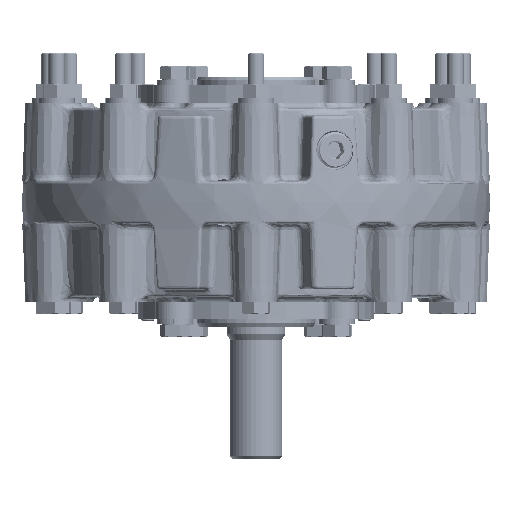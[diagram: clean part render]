
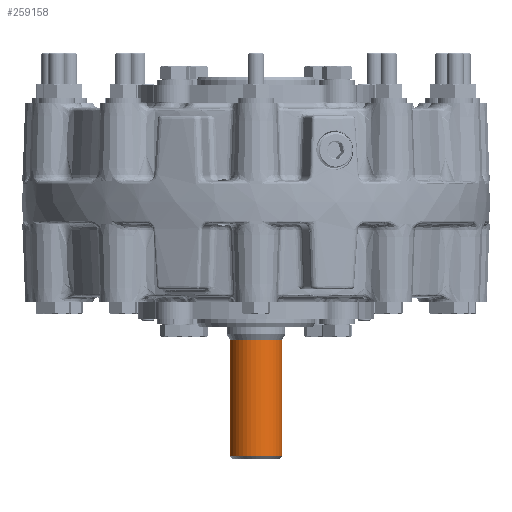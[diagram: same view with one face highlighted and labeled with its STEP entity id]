
A CAD part, front view. The second image highlights one B-rep face of the part: STEP entity #259158.
In plain terms, the highlighted cylindrical face has radius 12.694 mm (diameter 25.387 mm), a partial arc.
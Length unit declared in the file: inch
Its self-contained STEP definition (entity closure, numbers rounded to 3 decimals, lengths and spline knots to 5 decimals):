
#1478 = ORIENTED_EDGE ( 'NONE', *, *, #97974, .T. ) ;
#1939 = LINE ( 'NONE', #202069, #100217 ) ;
#20176 = DIRECTION ( 'NONE',  ( 1., 0., 0. ) ) ;
#36628 = CARTESIAN_POINT ( 'NONE',  ( 0., -0.49975, -2.52218 ) ) ;
#41267 = CARTESIAN_POINT ( 'NONE',  ( 0., 0., -2.52218 ) ) ;
#42764 = ORIENTED_EDGE ( 'NONE', *, *, #72127, .F. ) ;
#56180 = DIRECTION ( 'NONE',  ( 0., 0., -1. ) ) ;
#56465 = LINE ( 'NONE', #57778, #196197 ) ;
#57496 = CARTESIAN_POINT ( 'NONE',  ( 0., 0., -2.52218 ) ) ;
#57778 = CARTESIAN_POINT ( 'NONE',  ( 0.49975, 0., 0.003 ) ) ;
#62532 = ORIENTED_EDGE ( 'NONE', *, *, #189594, .T. ) ;
#62909 = AXIS2_PLACEMENT_3D ( 'NONE', #110902, #91141, #171426 ) ;
#72127 = EDGE_CURVE ( 'NONE', #255762, #110236, #1939, .T. ) ;
#73956 = CIRCLE ( 'NONE', #149795, 0.49975 ) ;
#74774 = ORIENTED_EDGE ( 'NONE', *, *, #195313, .T. ) ;
#87245 = EDGE_CURVE ( 'NONE', #255762, #184352, #189032, .T. ) ;
#87873 = EDGE_LOOP ( 'NONE', ( #42764, #126170, #1478, #74774, #62532 ) ) ;
#91141 = DIRECTION ( 'NONE',  ( 0., 0., 1. ) ) ;
#94538 = VERTEX_POINT ( 'NONE', #192455 ) ;
#97974 = EDGE_CURVE ( 'NONE', #184352, #94538, #56465, .T. ) ;
#100217 = VECTOR ( 'NONE', #104624, 39.37008 ) ;
#102646 = DIRECTION ( 'NONE',  ( 0., 0., 1. ) ) ;
#104624 = DIRECTION ( 'NONE',  ( 0., 0., 1. ) ) ;
#110236 = VERTEX_POINT ( 'NONE', #150193 ) ;
#110902 = CARTESIAN_POINT ( 'NONE',  ( 0., 0., -4.74938 ) ) ;
#113190 = CARTESIAN_POINT ( 'NONE',  ( 0.49975, 0., -4.74938 ) ) ;
#117679 = CARTESIAN_POINT ( 'NONE',  ( -0.49975, 0., -4.74938 ) ) ;
#121126 = CYLINDRICAL_SURFACE ( 'NONE', #225048, 0.49975 ) ;
#126170 = ORIENTED_EDGE ( 'NONE', *, *, #87245, .T. ) ;
#135870 = CIRCLE ( 'NONE', #140022, 0.49975 ) ;
#136788 = DIRECTION ( 'NONE',  ( 0., 0., 1. ) ) ;
#140022 = AXIS2_PLACEMENT_3D ( 'NONE', #57496, #56180, #216779 ) ;
#149795 = AXIS2_PLACEMENT_3D ( 'NONE', #41267, #199287, #20176 ) ;
#150193 = CARTESIAN_POINT ( 'NONE',  ( -0.49975, 0., -2.52218 ) ) ;
#171426 = DIRECTION ( 'NONE',  ( 1., 0., 0. ) ) ;
#181851 = VERTEX_POINT ( 'NONE', #36628 ) ;
#184352 = VERTEX_POINT ( 'NONE', #113190 ) ;
#189032 = CIRCLE ( 'NONE', #62909, 0.49975 ) ;
#189594 = EDGE_CURVE ( 'NONE', #181851, #110236, #135870, .T. ) ;
#192455 = CARTESIAN_POINT ( 'NONE',  ( 0.49975, 0., -2.52218 ) ) ;
#195313 = EDGE_CURVE ( 'NONE', #94538, #181851, #73956, .T. ) ;
#196197 = VECTOR ( 'NONE', #136788, 39.37008 ) ;
#199287 = DIRECTION ( 'NONE',  ( 0., 0., -1. ) ) ;
#200127 = CARTESIAN_POINT ( 'NONE',  ( 0., 0., 0.003 ) ) ;
#202069 = CARTESIAN_POINT ( 'NONE',  ( -0.49975, 0., 0.003 ) ) ;
#216779 = DIRECTION ( 'NONE',  ( 1., 0., 0. ) ) ;
#225048 = AXIS2_PLACEMENT_3D ( 'NONE', #200127, #102646, #240897 ) ;
#240897 = DIRECTION ( 'NONE',  ( 1., 0., 0. ) ) ;
#243495 = FACE_OUTER_BOUND ( 'NONE', #87873, .T. ) ;
#255762 = VERTEX_POINT ( 'NONE', #117679 ) ;
#259158 = ADVANCED_FACE ( 'NONE', ( #243495 ), #121126, .T. ) ;
